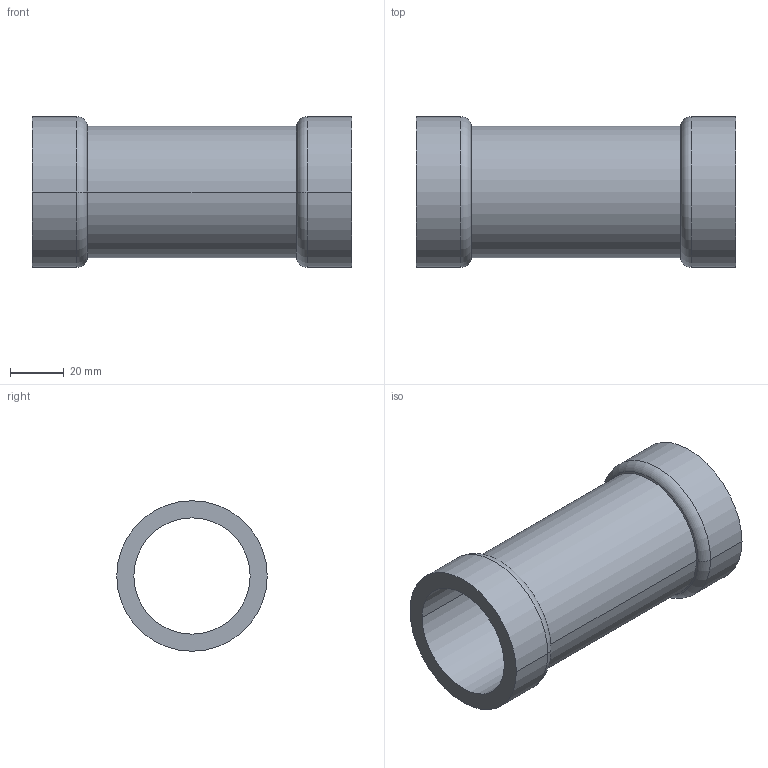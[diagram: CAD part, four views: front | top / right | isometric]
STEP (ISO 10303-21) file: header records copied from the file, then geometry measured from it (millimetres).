
FILE_DESCRIPTION(('Creo Elements/Direct Modeling STEP Export'),'2;1');
FILE_NAME('C9403_1-1-4.stp','2020-06-18T13:52:14',(''),(''),'PTC Creo Elements/Direct Modeling STEP processor for AP214 (Solid Model)','PTC Creo Elements/Direct Modeling 19.0C 15-Aug-2015 (C) Parametric Technology GmbH','');
FILE_SCHEMA(('AUTOMOTIVE_DESIGN { 1 0 10303 214 1 1 1 1 }'));
Length unit declared in the file: millimetre
Products named in the file (1): 9403_1-1-4
Bounding box: 118.8 x 56 x 56 mm (x, y, z)
Volume: 72229.7 mm3; surface area: 37888.7 mm2
Topology: 1 solids, 1 shells, 18 faces, 36 edges, 20 vertices
Faces by surface type: cylinder 8, cone 4, torus 4, plane 2
Entity records: 444 total; most frequent: DIRECTION 78, ORIENTED_EDGE 72, CARTESIAN_POINT 65, EDGE_CURVE 36, AXIS2_PLACEMENT_3D 33, VERTEX_POINT 20, EDGE_LOOP 20, FACE_OUTER_BOUND 18
